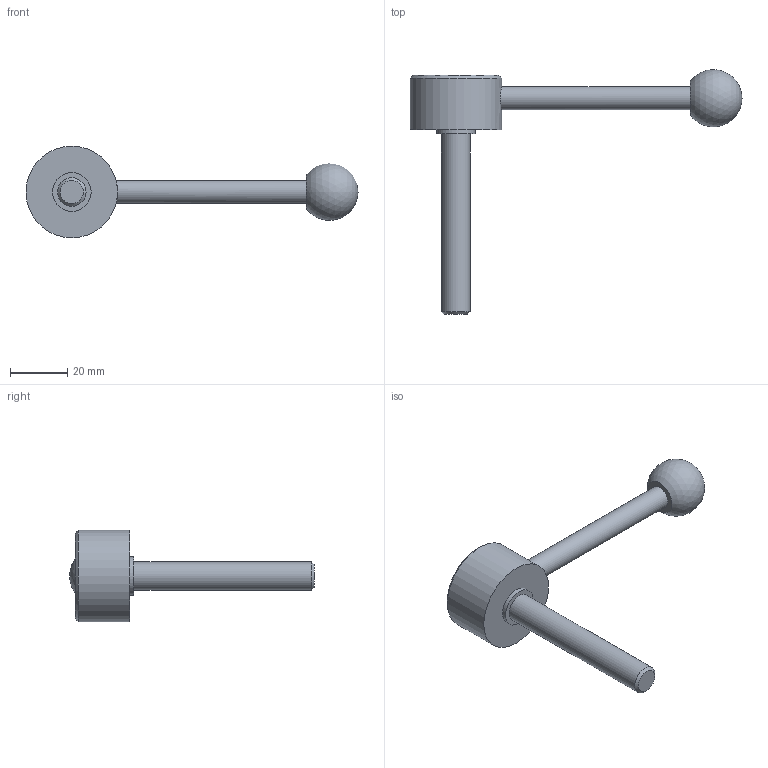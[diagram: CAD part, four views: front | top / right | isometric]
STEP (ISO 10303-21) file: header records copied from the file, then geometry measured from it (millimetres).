
FILE_DESCRIPTION( ( 'STEP AP203' ), '1' );
FILE_NAME( 'C:/Temp/Ganter_Step_05_03_2020/data/2_1/gn_125/gn_125_ms/gn_125_ms_d/Flat Adjustable Lever GN 125-32-M10-63-D.stp', '2020-03-05T11:00:46', ( 'License CC BY-ND 4.0' ), ( 'CADENAS' ), ' ', 'PARTsolutions', ' ' );
FILE_SCHEMA( ( 'CONFIG_CONTROL_DESIGN' ) );
Length unit declared in the file: millimetre
Products named in the file (1): _Flat Adjustable Lever GN 125-32-M10-63-D
Bounding box: 116 x 85.43 x 32 mm (x, y, z)
Volume: 27682.2 mm3; surface area: 8308.7 mm2
Topology: 1 solids, 1 shells, 14 faces, 23 edges, 15 vertices
Faces by surface type: plane 6, cylinder 5, cone 2, sphere 1
Full cylindrical faces by diameter (mm): 8 x1, 10 x1, 13.5 x1, 22 x1, 32 x1
Entity records: 384 total; most frequent: CARTESIAN_POINT 107, DIRECTION 54, AXIS2_PLACEMENT_3D 27, EDGE_LOOP 26, ORIENTED_EDGE 26, FACE_OUTER_BOUND 19, ADVANCED_FACE 14, VERTEX_POINT 14
